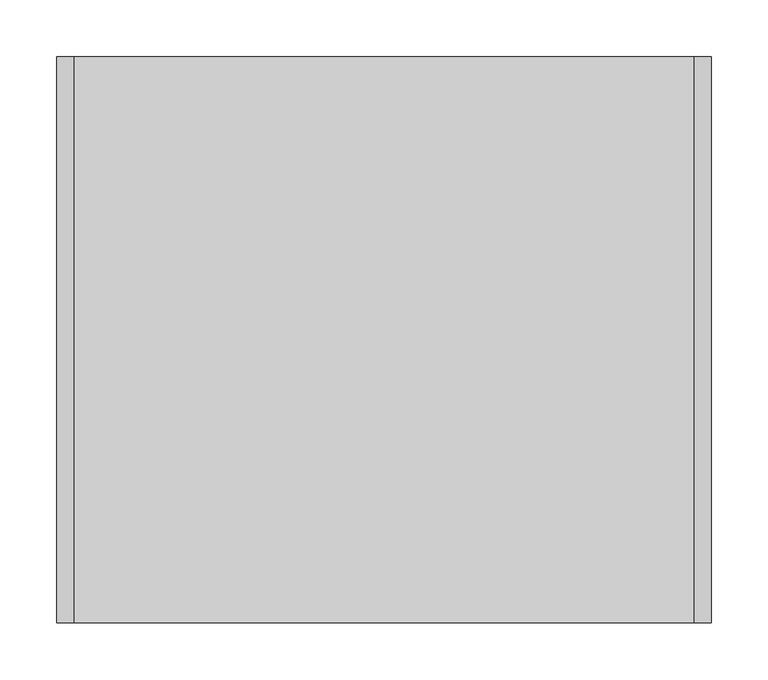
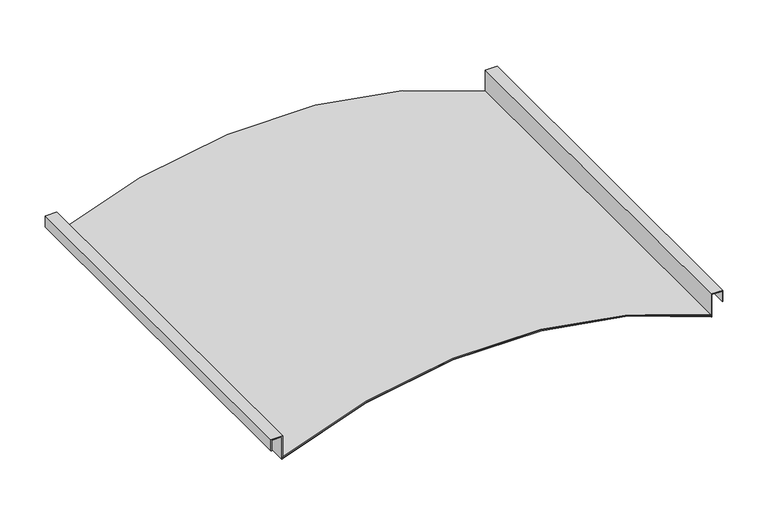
"""IFC4 building model written with IfcOpenShell, lengths in millimetres: proxy geometry, durlum_S5_DOMUS_panel : durlum_S5_DOMUS_panel_wall_corner."""

from ifc_helpers import new_model, si_unit, point, frame, frame_2d, origin, place, context, project, spatial, polyline, circle_curve, trimmed, segment, composite_curve, outline, extrude, source, transform, mapped, element, save


def generic_models_ead52ac8(model_context):
    return source(origin(), model_context, "Body", "SweptSolid", [
        extrude(outline(composite_curve([segment(trimmed(circle_curve(frame_2d((-599.0630208, 0.0)), 660.0630208), [point((1.5567665, -273.75))], [point((1.5567665, 273.75))], True, "CARTESIAN"), True, "CONTINUOUS"), segment(polyline([(1.5567665, 273.75), (2.6555637, 273.75)]), True, "CONTINUOUS"), segment(trimmed(circle_curve(frame_2d((-599.0630208, 0.0)), 661.0630208), [point((2.6555637, 273.75))], [point((2.6555637, -273.75))], False, "CARTESIAN"), True, "CONTINUOUS"), segment(polyline([(2.6555637, -273.75), (1.5567665, -273.75)]), True, "CONTINUOUS")], self_intersect=False)), frame((0.0, -249.75, 0.0), z_axis=(0.0, 1.0, 0.0), x_axis=(0.0, 0.0, 1.0)), (0.0, 0.0, 1.0), 499.5),
        extrude(outline(polyline([(30.0, -274.75), (0.0, -274.75), (0.0, -273.75), (31.0, -273.75), (31.0, -288.75), (16.0, -288.75), (16.0, -287.75), (30.0, -287.75), (30.0, -274.75)])), frame((0.0, -249.75, 0.0), z_axis=(0.0, 1.0, 0.0), x_axis=(0.0, 0.0, 1.0)), (0.0, 0.0, 1.0), 499.5),
        extrude(outline(polyline([(30.0, 274.75), (30.0, 287.75), (16.0, 287.75), (16.0, 288.75), (31.0, 288.75), (31.0, 273.75), (0.0, 273.75), (0.0, 274.75), (30.0, 274.75)])), frame((0.0, -249.75, 0.0), z_axis=(0.0, 1.0, 0.0), x_axis=(0.0, 0.0, 1.0)), (0.0, 0.0, 1.0), 499.5),
        extrude(outline(composite_curve([segment(polyline([(1.0999812, -274.75), (0.0, -274.75)]), True, "CONTINUOUS"), segment(trimmed(circle_curve(frame_2d((-599.0630208, 0.0)), 659.0630208), [point((0.0, -274.75))], [point((0.0, 274.75))], True, "CARTESIAN"), True, "CONTINUOUS"), segment(polyline([(0.0, 274.75), (1.0999812, 274.75)]), True, "CONTINUOUS"), segment(trimmed(circle_curve(frame_2d((-599.0630208, 0.0)), 660.0630208), [point((1.0999812, 274.75))], [point((1.0999812, -274.75))], False, "CARTESIAN"), True, "CONTINUOUS")], self_intersect=False)), frame((0.0, -249.75, 0.0), z_axis=(0.0, 1.0, 0.0), x_axis=(0.0, 0.0, 1.0)), (0.0, 0.0, 1.0), 499.5),
    ])


if __name__ == "__main__":
    model = new_model("IFC4")
    model_context = context("Model", 3, world=origin())
    ifc_project = project(units=[si_unit("LENGTHUNIT", "METRE", prefix="MILLI")], contexts=[model_context])
    site = spatial("IfcSite", under=ifc_project)
    building = spatial("IfcBuilding", under=site)
    placement = place(None, origin())
    generic_models_shape = generic_models_ead52ac8(model_context)
    element("IfcBuildingElementProxy", 1, Name="durlum_S5_DOMUS_panel : durlum_S5_DOMUS_panel_wall_corner", ObjectType="durlum_S5_DOMUS_panel : durlum_S5_DOMUS_panel_wall_corner", at=placement, inside=building, context=model_context, shape_type="MappedRepresentation", body=[
        mapped(generic_models_shape, transform((0.0, 0.0, 0.0), x_axis=(1.0, 0.0, 0.0), y_axis=(0.0, 1.0, 0.0), z_axis=(0.0, 0.0, 1.0))),
    ])
    save(model, "model.ifc")
